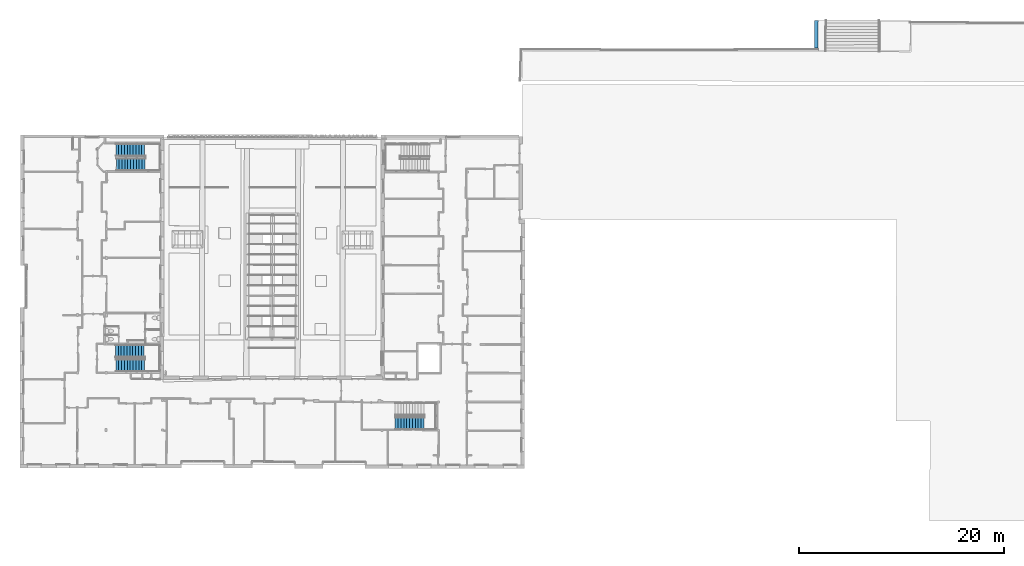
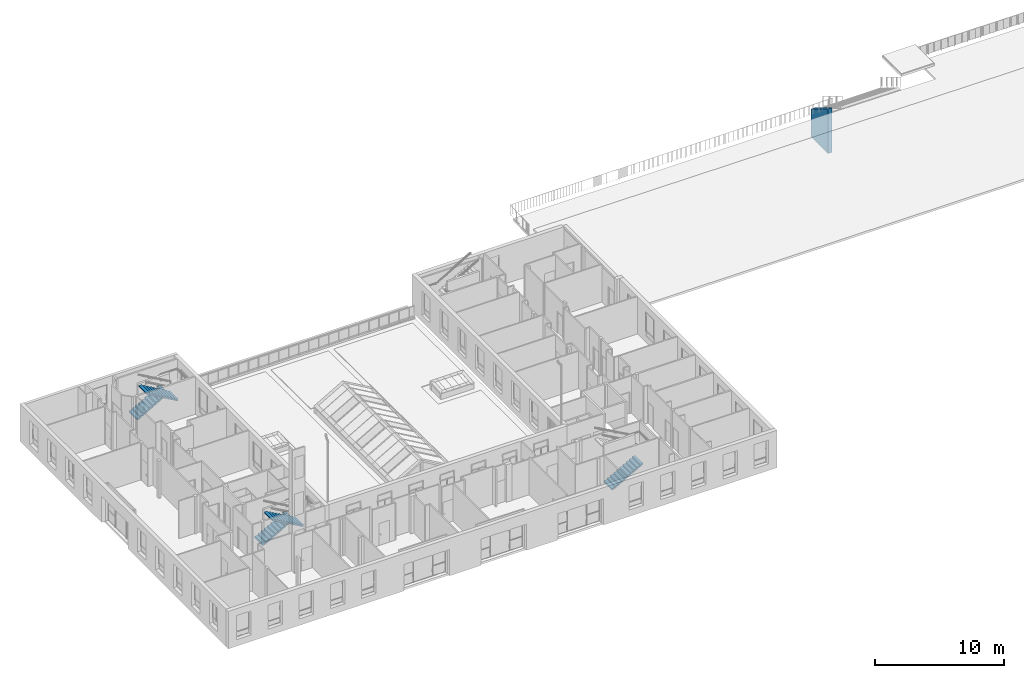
# One storey, part 96 of 101: 5 stair flights, 1 wall, 3 elements without a shape of their own.
"""IFC2X3 building model written with IfcOpenShell, lengths in metres."""

from ifc_helpers import new_model, entity, si_unit, converted_unit, derived_unit, direction, frame, origin, place, context, subcontext, project, spatial, faceted_brep, material, layer, layer_set, type_object, element, aggregate, save


model = new_model("IFC2X3")

# Units and contexts
model_context = context("Model", 3, precision=1e-05, world=origin(), true_north=direction((6.123233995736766e-17, 1.0)))
body_context = subcontext(model_context, "Body", "Model", "MODEL_VIEW")
ifc_project = project(units=[si_unit("LENGTHUNIT", "METRE"), si_unit("AREAUNIT", "SQUARE_METRE"), converted_unit("PLANEANGLEUNIT", "DEGREE", entity("IfcPlaneAngleMeasure", 0.017453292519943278), si_unit("PLANEANGLEUNIT", "RADIAN"), dimensions=[0, 0, 0, 0, 0, 0, 0]), derived_unit("THERMALTRANSMITTANCEUNIT", [(si_unit("MASSUNIT", "GRAM", prefix="KILO"), 1), (si_unit("THERMODYNAMICTEMPERATUREUNIT", "KELVIN"), -1), (si_unit("TIMEUNIT", "SECOND"), -3)])], contexts=[model_context])

# Site, building, storey
site_placement = place(None, frame((1253.6752467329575, 2072.143113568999, 91.49999999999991), z_axis=(0.0, 0.0, 1.0), x_axis=(0.7237211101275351, 0.6900925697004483, 0.0)))
site = spatial("IfcSite", under=ifc_project, at=site_placement, Name="Surface", CompositionType="ELEMENT")
building_placement = place(site_placement, origin())
building = spatial("IfcBuilding", under=site, at=building_placement, CompositionType="ELEMENT")
storey_placement = place(building_placement, origin())
storey = spatial("IfcBuildingStorey", under=building, at=storey_placement, Name="0- Rdc", CompositionType="ELEMENT", Elevation=-5.764692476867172e-13)

# Wall
ifc_material_1 = material(Name="OMD_Béton blanc")
ifc_layer = layer(ifc_material_1, 0.35)
ifc_layer_set = layer_set([ifc_layer], Name="Mur de base:MUR 35")
wall_type = type_object("IfcWallType", Name="Mur de base:MUR 35", PredefinedType="STANDARD", material=ifc_layer_set)
wall_placement = place(storey_placement, frame((230.0450433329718, -17.741332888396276, -4.9590424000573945), z_axis=(0.0, 0.0, 1.0), x_axis=(-0.6968585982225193, -0.7172085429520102, 0.0)))
element("IfcWall", 1, at=wall_placement, inside=storey, type_object=wall_type, Name="Mur de base:MUR 35", ObjectType="Mur de base:MUR 35", context=body_context, shape_type="Brep", body=[
    faceted_brep([(0.0, -0.17499999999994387, 0.0), (2.692794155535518, -0.17499999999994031, 0.0), (2.692794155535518, -0.17499999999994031, 4.240274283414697), (0.0, -0.17499999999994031, 2.6095068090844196), (0.0, 0.17500000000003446, 0.0), (0.0, 0.17500000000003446, 2.609506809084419), (2.6885943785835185, 0.1750000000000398, 4.237730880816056), (2.6885943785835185, 0.1750000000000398, 0.33715993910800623), (2.6885943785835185, 0.1750000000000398, 0.0)], [[[0, 1, 2, 3]], [[4, 5, 6, 7, 8]], [[1, 0, 4, 8]], [[2, 1, 8, 7, 6]], [[0, 3, 5, 4]], [[3, 2, 6, 5]]]),
])

# Stair, stair flight
type_product = type_object("IfcTypeProduct", Name="Escalier coulé sur place:Monobloc")
stair_1_placement = place(storey_placement, origin())
stair_1 = element("IfcStair", 2, at=stair_1_placement, inside=storey, type_object=type_product, Name="Escalier coulé sur place:Escalier", ObjectType="Escalier coulé sur place:Monobloc", ShapeType="HALF_TURN_STAIR")
ifc_material_2 = material(Name="<Unnamed>")
stair_flight_type = type_object("IfcStairFlightType", Name="Volée monobloc:Nez de marche 5 mm", PredefinedType="STRAIGHT")
stair_flight_1_placement = place(stair_1_placement, frame((172.77798046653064, -20.219401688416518, 0.0)))
stair_flight_1 = element("IfcStairFlight", 3, at=stair_flight_1_placement, type_object=stair_flight_type, material=ifc_material_2, Name="Escalier coulé sur place:Escalier:3231157 Run 1", ObjectType="Volée monobloc:Nez de marche 5 mm", NumberOfRiser=11, NumberOfTreads=10, RiserHeight=0.5144953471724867, TreadLength=0.9186351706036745, context=body_context, shape_type="Brep", body=[
    faceted_brep([(1.066133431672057, 2.644866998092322, 0.15681818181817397), (0.8637297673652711, 2.8383424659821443, 0.15681818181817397), (0.0, 1.934754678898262, 0.15681818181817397), (0.2024036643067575, 1.7412792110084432, 0.15681818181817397), (1.0661334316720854, 2.64486699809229, 0.06512573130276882), (0.9820762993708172, 2.725216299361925, 0.0), (0.8637297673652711, 2.8383424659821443, 0.0), (0.0, 1.934754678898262, 0.0), (0.11834653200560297, 1.8216285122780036, 0.0), (0.20240366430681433, 1.7412792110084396, 0.06512573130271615), (1.2685370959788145, 2.4513915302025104, 0.3136363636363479), (1.0661334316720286, 2.6448669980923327, 0.3136363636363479), (0.2024036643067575, 1.7412792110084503, 0.3136363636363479), (0.404807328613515, 1.54780374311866, 0.3136363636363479), (1.2685370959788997, 2.4513915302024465, 0.22194391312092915), (0.4048073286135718, 1.5478037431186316, 0.22194391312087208), (1.470940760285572, 2.2579160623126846, 0.47045454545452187), (1.268537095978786, 2.451391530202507, 0.47045454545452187), (0.404807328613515, 1.5478037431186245, 0.47045454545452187), (0.6072109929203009, 1.35432827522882, 0.47045454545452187), (1.4709407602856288, 2.257916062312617, 0.3787620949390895), (0.6072109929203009, 1.3543282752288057, 0.3787620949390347), (1.6733444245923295, 2.0644405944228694, 0.6272727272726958), (1.4709407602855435, 2.2579160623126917, 0.6272727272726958), (0.6072109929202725, 1.3543282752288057, 0.6272727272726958), (0.8096146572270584, 1.1608528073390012, 0.6272727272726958), (1.6733444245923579, 2.0644405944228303, 0.5355802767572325), (0.8096146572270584, 1.160852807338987, 0.535580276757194), (1.875748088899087, 1.87096512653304, 0.7840909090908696), (1.673344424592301, 2.0644405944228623, 0.7840909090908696), (0.80961465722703, 1.1608528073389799, 0.7840909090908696), (1.0120183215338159, 0.9673773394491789, 0.7840909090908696), (1.8757480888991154, 1.8709651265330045, 0.6923984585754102), (1.0120183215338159, 0.9673773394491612, 0.6923984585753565), (2.0781517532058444, 1.6774896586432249, 0.9409090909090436), (1.8757480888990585, 1.8709651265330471, 0.9409090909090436), (1.0120183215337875, 0.9673773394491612, 0.9409090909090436), (1.2144219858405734, 0.7739018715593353, 0.9409090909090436), (2.078151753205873, 1.6774896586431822, 0.8492166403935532), (1.2144219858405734, 0.7739018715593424, 0.8492166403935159), (2.280555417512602, 1.4840141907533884, 1.0977272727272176), (2.078151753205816, 1.6774896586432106, 1.0977272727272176), (1.214421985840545, 0.7739018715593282, 1.0977272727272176), (1.4168256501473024, 0.5804264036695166, 1.0977272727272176), (2.2805554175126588, 1.484014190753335, 1.0060348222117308), (1.4168256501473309, 0.5804264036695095, 1.0060348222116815), (2.4829590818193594, 1.2905387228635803, 1.2545454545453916), (2.2805554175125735, 1.4840141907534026, 1.2545454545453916), (1.4168256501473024, 0.5804264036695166, 1.2545454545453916), (1.61922931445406, 0.38695093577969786, 1.2545454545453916), (2.482959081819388, 1.2905387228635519, 1.1628530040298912), (1.6192293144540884, 0.38695093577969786, 1.1628530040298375), (2.685362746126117, 1.0970632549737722, 1.4113636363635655), (2.482959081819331, 1.290538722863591, 1.4113636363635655), (1.61922931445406, 0.3869509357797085, 1.4113636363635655), (1.821632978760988, 0.19347546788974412, 1.4113636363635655), (2.6853627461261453, 1.097063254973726, 1.3196711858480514), (1.8216329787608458, 0.19347546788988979, 1.3196711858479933), (2.887766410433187, 0.9035877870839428, 1.5681818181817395), (2.6853627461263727, 1.097063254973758, 1.5681818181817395), (1.82163297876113, 0.19347546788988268, 1.5681818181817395), (2.020422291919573, 0.003454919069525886, 1.5681818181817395), (2.024036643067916, 0.0, 1.5681818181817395), (2.887766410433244, 0.903587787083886, 1.4764893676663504), (2.020422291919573, 0.003454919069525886, 1.473689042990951), (2.024036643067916, 0.0, 1.4764893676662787)], [[[0, 1, 2, 3]], [[1, 0, 4, 5, 6]], [[2, 1, 6, 7]], [[3, 2, 7, 8, 9]], [[10, 11, 12, 13]], [[11, 10, 14, 4, 0]], [[0, 3, 12, 11]], [[13, 12, 3, 9, 15]], [[16, 17, 18, 19]], [[17, 16, 20, 14, 10]], [[10, 13, 18, 17]], [[19, 18, 13, 15, 21]], [[22, 23, 24, 25]], [[23, 22, 26, 20, 16]], [[16, 19, 24, 23]], [[25, 24, 19, 21, 27]], [[28, 29, 30, 31]], [[29, 28, 32, 26, 22]], [[22, 25, 30, 29]], [[31, 30, 25, 27, 33]], [[34, 35, 36, 37]], [[35, 34, 38, 32, 28]], [[28, 31, 36, 35]], [[37, 36, 31, 33, 39]], [[40, 41, 42, 43]], [[41, 40, 44, 38, 34]], [[34, 37, 42, 41]], [[43, 42, 37, 39, 45]], [[46, 47, 48, 49]], [[47, 46, 50, 44, 40]], [[40, 43, 48, 47]], [[49, 48, 43, 45, 51]], [[52, 53, 54, 55]], [[53, 52, 56, 50, 46]], [[46, 49, 54, 53]], [[55, 54, 49, 51, 57]], [[58, 59, 60, 61, 62]], [[59, 58, 63, 56, 52]], [[52, 55, 60, 59]], [[61, 60, 55, 57, 64]], [[62, 61, 64, 65]], [[58, 62, 65, 63]], [[7, 6, 5, 8]], [[8, 5, 4, 14, 20, 26, 32, 38, 44, 50, 56, 63, 65, 64, 57, 51, 45, 39, 33, 27, 21, 15, 9]]]),
])
aggregate(stair_1, [stair_flight_1])

# Stair, stair flights
stair_2_placement = place(storey_placement, origin())
stair_2 = element("IfcStair", 4, at=stair_2_placement, inside=storey, type_object=type_product, Name="Escalier coulé sur place:Escalier", ObjectType="Escalier coulé sur place:Monobloc", ShapeType="HALF_TURN_STAIR")
stair_flight_2_placement = place(stair_2_placement, frame((157.90272157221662, 3.7072982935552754, 0.0)))
stair_flight_2 = element("IfcStairFlight", 5, at=stair_flight_2_placement, type_object=stair_flight_type, material=ifc_material_2, Name="Escalier coulé sur place:Escalier:3234227 Run 1", ObjectType="Volée monobloc:Nez de marche 5 mm", NumberOfRiser=11, NumberOfTreads=10, RiserHeight=0.5144953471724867, TreadLength=0.9186351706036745, context=body_context, shape_type="Brep", body=[
    faceted_brep([(1.0661334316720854, 2.644866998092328, 0.15681818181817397), (0.8637297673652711, 2.83834246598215, 0.15681818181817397), (0.0, 1.934754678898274, 0.15681818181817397), (0.20240366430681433, 1.7412792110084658, 0.15681818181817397), (1.0661334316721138, 2.644866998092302, 0.06512573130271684), (0.9820762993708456, 2.7252162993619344, 0.0), (0.8637297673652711, 2.83834246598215, 0.0), (0.0, 1.934754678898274, 0.0), (0.11834653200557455, 1.821628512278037, 0.0), (0.20240366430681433, 1.7412792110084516, 0.06512573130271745), (1.2685370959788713, 2.4513915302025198, 0.3136363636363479), (1.0661334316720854, 2.644866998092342, 0.3136363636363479), (0.20240366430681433, 1.7412792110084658, 0.3136363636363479), (0.40480732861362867, 1.547803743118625, 0.3136363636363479), (1.2685370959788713, 2.451391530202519, 0.22194391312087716), (0.40480732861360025, 1.5478037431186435, 0.22194391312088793), (1.4709407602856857, 2.2579160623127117, 0.47045454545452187), (1.2685370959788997, 2.451391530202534, 0.47045454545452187), (0.40480732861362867, 1.5478037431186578, 0.47045454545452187), (0.607210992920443, 1.354328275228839, 0.47045454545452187), (1.470940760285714, 2.257916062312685, 0.3787620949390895), (0.607210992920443, 1.3543282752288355, 0.3787620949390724), (1.6733444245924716, 2.0644405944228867, 0.6272727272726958), (1.4709407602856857, 2.257916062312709, 0.6272727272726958), (0.607210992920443, 1.354328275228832, 0.6272727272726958), (0.8096146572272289, 1.160852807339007, 0.6272727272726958), (1.6733444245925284, 2.0644405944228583, 0.5355802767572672), (0.8096146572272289, 1.1608528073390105, 0.5355802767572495), (1.875748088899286, 1.870965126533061, 0.7840909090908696), (1.6733444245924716, 2.064440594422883, 0.7840909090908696), (0.8096146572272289, 1.160852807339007, 0.7840909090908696), (1.0120183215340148, 0.9673773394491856, 0.7840909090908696), (1.875748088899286, 1.8709651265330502, 0.6923984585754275), (1.0120183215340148, 0.9673773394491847, 0.6923984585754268), (2.078151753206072, 1.677489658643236, 0.9409090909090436), (1.875748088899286, 1.8709651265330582, 0.9409090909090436), (1.0120183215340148, 0.9673773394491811, 0.9409090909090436), (1.2144219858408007, 0.7739018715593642, 0.9409090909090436), (2.078151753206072, 1.6774896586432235, 0.8492166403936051), (1.2144219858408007, 0.7739018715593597, 0.8492166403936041), (2.2805554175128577, 1.4840141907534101, 1.0977272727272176), (2.078151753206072, 1.6774896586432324, 1.0977272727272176), (1.2144219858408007, 0.7739018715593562, 1.0977272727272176), (1.4168256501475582, 0.5804264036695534, 1.0977272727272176), (2.280555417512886, 1.4840141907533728, 1.0060348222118), (1.4168256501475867, 0.5804264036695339, 1.0060348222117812), (2.4829590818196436, 1.2905387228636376, 1.2545454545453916), (2.2805554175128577, 1.484014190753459, 1.2545454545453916), (1.4168256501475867, 0.5804264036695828, 1.2545454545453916), (1.6192293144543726, 0.38695093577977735, 1.2545454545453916), (2.482959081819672, 1.2905387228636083, 1.1628530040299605), (1.6192293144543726, 0.3869509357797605, 1.162853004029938), (2.6853627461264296, 1.0970632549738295, 1.4113636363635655), (2.4829590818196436, 1.290538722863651, 1.4113636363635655), (1.6192293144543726, 0.3869509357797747, 1.4113636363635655), (1.821632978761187, 0.19347546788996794, 1.4113636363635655), (2.685362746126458, 1.0970632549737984, 1.3196711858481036), (1.821632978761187, 0.19347546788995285, 1.3196711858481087), (2.8877664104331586, 0.9035877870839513, 1.5681818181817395), (2.8841520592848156, 0.9070427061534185, 1.5681818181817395), (2.6853627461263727, 1.0970632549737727, 1.5681818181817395), (1.8216329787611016, 0.19347546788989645, 1.5681818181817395), (2.0204222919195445, 0.003454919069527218, 1.5681818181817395), (2.0240366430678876, 0.0, 1.5681818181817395), (2.8877664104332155, 0.9035877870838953, 1.4764893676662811), (2.8841520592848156, 0.9070427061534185, 1.4736890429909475), (2.0204222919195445, 0.003454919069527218, 1.473689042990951), (2.0240366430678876, 0.0, 1.476489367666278)], [[[0, 1, 2, 3]], [[1, 0, 4, 5, 6]], [[2, 1, 6, 7]], [[3, 2, 7, 8, 9]], [[10, 11, 12, 13]], [[11, 10, 14, 4, 0]], [[0, 3, 12, 11]], [[13, 12, 3, 9, 15]], [[16, 17, 18, 19]], [[17, 16, 20, 14, 10]], [[10, 13, 18, 17]], [[19, 18, 13, 15, 21]], [[22, 23, 24, 25]], [[23, 22, 26, 20, 16]], [[16, 19, 24, 23]], [[25, 24, 19, 21, 27]], [[28, 29, 30, 31]], [[29, 28, 32, 26, 22]], [[22, 25, 30, 29]], [[31, 30, 25, 27, 33]], [[34, 35, 36, 37]], [[35, 34, 38, 32, 28]], [[28, 31, 36, 35]], [[37, 36, 31, 33, 39]], [[40, 41, 42, 43]], [[41, 40, 44, 38, 34]], [[34, 37, 42, 41]], [[43, 42, 37, 39, 45]], [[46, 47, 48, 49]], [[47, 46, 50, 44, 40]], [[40, 43, 48, 47]], [[49, 48, 43, 45, 51]], [[52, 53, 54, 55]], [[53, 52, 56, 50, 46]], [[46, 49, 54, 53]], [[55, 54, 49, 51, 57]], [[58, 59, 60, 61, 62, 63]], [[59, 58, 64, 65]], [[60, 59, 65, 56, 52]], [[52, 55, 61, 60]], [[62, 61, 55, 57, 66]], [[63, 62, 66, 67]], [[58, 63, 67, 64]], [[7, 6, 5, 8]], [[8, 5, 4, 14, 20, 26, 32, 38, 44, 50, 56, 65, 64, 67, 66, 57, 51, 45, 39, 33, 27, 21, 15, 9]]]),
])
stair_flight_3_placement = place(stair_2_placement, frame((156.976848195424, 2.6693911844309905, 0.0)))
stair_flight_3 = element("IfcStairFlight", 6, at=stair_flight_3_placement, type_object=stair_flight_type, material=ifc_material_2, Name="Escalier coulé sur place:Escalier:3234227 Run 2", ObjectType="Volée monobloc:Nez de marche 5 mm", NumberOfRiser=11, NumberOfTreads=10, RiserHeight=0.5144953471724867, TreadLength=0.9186351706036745, context=body_context, shape_type="Brep", body=[
    faceted_brep([(1.8180186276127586, 0.1934754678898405, 1.8818181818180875), (2.0204222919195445, 0.0, 1.8818181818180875), (2.8841520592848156, 0.9035877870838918, 1.8818181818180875), (2.6817483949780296, 1.0970632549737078, 1.8818181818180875), (1.8180186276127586, 0.19347546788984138, 1.7901257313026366), (2.0204222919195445, 0.0, 1.6333075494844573), (2.0204222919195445, 0.0, 1.7249999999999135), (2.8841520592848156, 0.9035877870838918, 1.633307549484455), (2.8841520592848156, 0.9035877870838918, 1.7249999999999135), (2.6817483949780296, 1.097063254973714, 1.7901257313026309), (1.6156149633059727, 0.38695093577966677, 2.0386363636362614), (1.8180186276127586, 0.19347546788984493, 2.0386363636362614), (2.6817483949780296, 1.097063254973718, 2.0386363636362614), (2.4793447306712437, 1.2905387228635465, 2.0386363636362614), (1.6156149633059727, 0.38695093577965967, 1.9469439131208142), (2.4793447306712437, 1.2905387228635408, 1.9469439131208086), (1.4132112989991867, 0.5804264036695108, 2.1954545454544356), (1.6156149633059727, 0.38695093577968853, 2.1954545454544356), (2.4793447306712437, 1.2905387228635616, 2.1954545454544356), (2.2769410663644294, 1.4840141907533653, 2.1954545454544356), (1.4132112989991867, 0.5804264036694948, 2.103762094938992), (2.2769410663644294, 1.484014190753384, 2.103762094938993), (1.2108076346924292, 0.7739018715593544, 2.3522727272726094), (1.4132112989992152, 0.5804264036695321, 2.3522727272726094), (2.2769410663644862, 1.4840141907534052, 2.3522727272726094), (2.074537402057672, 1.677489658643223, 2.3522727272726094), (1.2108076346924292, 0.7739018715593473, 2.2605802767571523), (2.074537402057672, 1.6774896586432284, 2.260580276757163), (1.0084039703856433, 0.9673773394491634, 2.5090909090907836), (1.2108076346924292, 0.7739018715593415, 2.5090909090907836), (2.074537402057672, 1.6774896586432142, 2.5090909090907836), (1.8721337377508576, 1.8709651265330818, 2.5090909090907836), (1.0084039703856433, 0.9673773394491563, 2.41739845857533), (1.872133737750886, 1.8709651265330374, 2.4173984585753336), (0.8060003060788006, 1.1608528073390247, 2.6659090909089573), (1.008403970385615, 0.9673773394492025, 2.6659090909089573), (1.8721337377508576, 1.8709651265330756, 2.6659090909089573), (1.6697300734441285, 2.0644405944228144, 2.6659090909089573), (0.8060003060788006, 1.1608528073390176, 2.5742166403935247), (1.6697300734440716, 2.064440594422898, 2.574216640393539), (0.6035966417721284, 1.3543282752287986, 2.822727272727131), (0.8060003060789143, 1.1608528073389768, 2.822727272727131), (1.6697300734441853, 2.06444059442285, 2.822727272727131), (1.467326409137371, 2.257916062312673, 2.822727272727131), (0.6035966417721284, 1.3543282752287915, 2.7310348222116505), (1.467326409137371, 2.257916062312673, 2.7310348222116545), (0.40119297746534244, 1.5478037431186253, 2.9795454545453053), (0.6035966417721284, 1.354328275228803, 2.9795454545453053), (1.467326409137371, 2.2579160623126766, 2.9795454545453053), (1.264922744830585, 2.451391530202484, 2.9795454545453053), (0.40119297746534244, 1.5478037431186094, 2.8878530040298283), (1.264922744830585, 2.4513915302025, 2.8878530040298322), (0.19878931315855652, 1.7412792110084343, 3.136363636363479), (0.40119297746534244, 1.547803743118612, 3.136363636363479), (1.264922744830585, 2.4513915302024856, 3.136363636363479), (1.0625190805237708, 2.6448669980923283, 3.136363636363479), (0.19878931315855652, 1.7412792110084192, 3.0446711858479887), (1.0625190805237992, 2.6448669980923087, 3.044671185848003), (0.0, 1.9312997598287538, 3.2931818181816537), (0.19878931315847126, 1.7412792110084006, 3.2931818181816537), (1.0625190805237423, 2.644866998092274, 3.2931818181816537), (0.8637297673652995, 2.834887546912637, 3.2931818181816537), (0.0, 1.9312997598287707, 3.1986890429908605), (0.8637297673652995, 2.834887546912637, 3.198689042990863)], [[[0, 1, 2, 3]], [[1, 0, 4, 5, 6]], [[2, 1, 6, 5, 7, 8]], [[3, 2, 8, 7, 9]], [[10, 11, 12, 13]], [[11, 10, 14, 4, 0]], [[12, 11, 0, 3]], [[13, 12, 3, 9, 15]], [[16, 17, 18, 19]], [[17, 16, 20, 14, 10]], [[18, 17, 10, 13]], [[19, 18, 13, 15, 21]], [[22, 23, 24, 25]], [[23, 22, 26, 20, 16]], [[24, 23, 16, 19]], [[25, 24, 19, 21, 27]], [[28, 29, 30, 31]], [[29, 28, 32, 26, 22]], [[30, 29, 22, 25]], [[31, 30, 25, 27, 33]], [[34, 35, 36, 37]], [[35, 34, 38, 32, 28]], [[36, 35, 28, 31]], [[37, 36, 31, 33, 39]], [[40, 41, 42, 43]], [[41, 40, 44, 38, 34]], [[42, 41, 34, 37]], [[43, 42, 37, 39, 45]], [[46, 47, 48, 49]], [[47, 46, 50, 44, 40]], [[48, 47, 40, 43]], [[49, 48, 43, 45, 51]], [[52, 53, 54, 55]], [[53, 52, 56, 50, 46]], [[54, 53, 46, 49]], [[55, 54, 49, 51, 57]], [[58, 59, 60, 61]], [[59, 58, 62, 56, 52]], [[60, 59, 52, 55]], [[61, 60, 55, 57, 63]], [[58, 61, 63, 62]], [[5, 4, 14, 20, 26, 32, 38, 44, 50, 56, 62, 63, 57, 51, 45, 39, 33, 27, 21, 15, 9, 7]]]),
])
aggregate(stair_2, [stair_flight_2, stair_flight_3])

stair_3_placement = place(storey_placement, origin())
stair_3 = element("IfcStair", 7, at=stair_3_placement, inside=storey, type_object=type_product, Name="Escalier coulé sur place:Escalier", ObjectType="Escalier coulé sur place:Monobloc", ShapeType="HALF_TURN_STAIR")
stair_flight_4_placement = place(stair_3_placement, frame((171.45929842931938, 17.866532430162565, 0.0)))
stair_flight_4 = element("IfcStairFlight", 8, at=stair_flight_4_placement, type_object=stair_flight_type, material=ifc_material_2, Name="Escalier coulé sur place:Escalier:3239510 Run 1", ObjectType="Volée monobloc:Nez de marche 5 mm", NumberOfRiser=11, NumberOfTreads=10, RiserHeight=0.5294082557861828, TreadLength=0.9186351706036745, context=body_context, shape_type="Brep", body=[
    faceted_brep([(1.0661334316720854, 2.6448669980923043, 0.16136363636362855), (0.8637297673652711, 2.838342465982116, 0.16136363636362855), (0.0, 1.9347546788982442, 0.16136363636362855), (0.20240366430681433, 1.7412792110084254, 0.16136363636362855), (1.0661334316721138, 2.6448669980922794, 0.06902962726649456), (0.9795473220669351, 2.7276337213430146, 0.0), (0.8637297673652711, 2.838342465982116, 0.0), (0.0, 1.9347546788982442, 0.0), (0.11581755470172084, 1.8240459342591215, 0.0), (0.20240366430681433, 1.7412792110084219, 0.06902962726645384), (1.2685370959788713, 2.451391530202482, 0.32272727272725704), (1.0661334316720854, 2.6448669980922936, 0.32272727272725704), (0.20240366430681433, 1.7412792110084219, 0.32272727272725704), (0.40480732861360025, 1.547803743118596, 0.32272727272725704), (1.2685370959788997, 2.4513915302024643, 0.23039326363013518), (0.40480732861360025, 1.547803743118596, 0.23039326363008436), (1.4709407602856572, 2.2579160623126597, 0.48409090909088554), (1.2685370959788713, 2.451391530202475, 0.48409090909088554), (0.40480732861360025, 1.5478037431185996, 0.48409090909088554), (0.6072109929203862, 1.3543282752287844, 0.48409090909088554), (1.4709407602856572, 2.2579160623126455, 0.3917568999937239), (0.6072109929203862, 1.3543282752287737, 0.3917568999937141), (1.6733444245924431, 2.0644405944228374, 0.645454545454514), (1.4709407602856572, 2.2579160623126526, 0.645454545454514), (0.6072109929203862, 1.3543282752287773, 0.645454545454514), (0.8096146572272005, 1.1608528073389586, 0.645454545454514), (1.6733444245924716, 2.0644405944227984, 0.5531205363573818), (0.8096146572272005, 1.1608528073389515, 0.5531205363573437), (1.875748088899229, 1.8709651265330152, 0.8068181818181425), (1.6733444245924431, 2.0644405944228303, 0.8068181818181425), (0.8096146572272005, 1.160852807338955, 0.8068181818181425), (1.0120183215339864, 0.9673773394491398, 0.8068181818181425), (1.875748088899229, 1.8709651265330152, 0.7144841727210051), (1.0120183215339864, 0.9673773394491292, 0.7144841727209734), (2.078151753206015, 1.6774896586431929, 0.9681818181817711), (1.875748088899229, 1.870965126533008, 0.9681818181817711), (1.0120183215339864, 0.9673773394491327, 0.9681818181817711), (1.2144219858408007, 0.773901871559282, 0.9681818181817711), (2.078151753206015, 1.6774896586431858, 0.8758478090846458), (1.2144219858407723, 0.7739018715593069, 0.8758478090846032), (2.2805554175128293, 1.4840141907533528, 1.1295454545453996), (2.078151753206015, 1.677489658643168, 1.1295454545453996), (1.2144219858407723, 0.7739018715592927, 1.1295454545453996), (1.4168256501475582, 0.5804264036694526, 1.1295454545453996), (2.2805554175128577, 1.4840141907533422, 1.037211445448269), (1.4168256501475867, 0.5804264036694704, 1.037211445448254), (2.482959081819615, 1.2905387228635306, 1.2909090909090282), (2.2805554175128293, 1.4840141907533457, 1.2909090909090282), (1.4168256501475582, 0.5804264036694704, 1.2909090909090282), (1.6192293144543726, 0.3869509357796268, 1.2909090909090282), (2.482959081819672, 1.2905387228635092, 1.1985750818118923), (1.6192293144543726, 0.3869509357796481, 1.1985750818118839), (2.685362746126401, 1.0970632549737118, 1.4522727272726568), (2.482959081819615, 1.2905387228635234, 1.4522727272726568), (1.6192293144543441, 0.3869509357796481, 1.4522727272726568), (1.8216329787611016, 0.1934754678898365, 1.4522727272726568), (2.685362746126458, 1.097063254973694, 1.359938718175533), (1.821632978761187, 0.19347546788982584, 1.3599387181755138), (2.887766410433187, 0.9035877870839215, 1.6136363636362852), (2.884152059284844, 0.9070427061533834, 1.6136363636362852), (2.685362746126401, 1.0970632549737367, 1.6136363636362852), (1.82163297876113, 0.19347546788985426, 1.6136363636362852), (2.020422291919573, 0.003454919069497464, 1.6136363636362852), (2.0240366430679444, 0.0, 1.6136363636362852), (2.8877664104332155, 0.9035877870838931, 1.5213023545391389), (2.884152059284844, 0.9070427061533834, 1.518420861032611), (2.020422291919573, 0.003454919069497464, 1.5184208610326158), (2.0240366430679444, 0.0, 1.5213023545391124)], [[[0, 1, 2, 3]], [[1, 0, 4, 5, 6]], [[2, 1, 6, 7]], [[3, 2, 7, 8, 9]], [[10, 11, 12, 13]], [[11, 10, 14, 4, 0]], [[0, 3, 12, 11]], [[13, 12, 3, 9, 15]], [[16, 17, 18, 19]], [[17, 16, 20, 14, 10]], [[10, 13, 18, 17]], [[19, 18, 13, 15, 21]], [[22, 23, 24, 25]], [[23, 22, 26, 20, 16]], [[16, 19, 24, 23]], [[25, 24, 19, 21, 27]], [[28, 29, 30, 31]], [[29, 28, 32, 26, 22]], [[22, 25, 30, 29]], [[31, 30, 25, 27, 33]], [[34, 35, 36, 37]], [[35, 34, 38, 32, 28]], [[28, 31, 36, 35]], [[37, 36, 31, 33, 39]], [[40, 41, 42, 43]], [[41, 40, 44, 38, 34]], [[34, 37, 42, 41]], [[43, 42, 37, 39, 45]], [[46, 47, 48, 49]], [[47, 46, 50, 44, 40]], [[40, 43, 48, 47]], [[49, 48, 43, 45, 51]], [[52, 53, 54, 55]], [[53, 52, 56, 50, 46]], [[46, 49, 54, 53]], [[55, 54, 49, 51, 57]], [[58, 59, 60, 61, 62, 63]], [[59, 58, 64, 65]], [[60, 59, 65, 56, 52]], [[52, 55, 61, 60]], [[62, 61, 55, 57, 66]], [[63, 62, 66, 67]], [[58, 63, 67, 64]], [[7, 6, 5, 8]], [[8, 5, 4, 14, 20, 26, 32, 38, 44, 50, 56, 65, 64, 67, 66, 57, 51, 45, 39, 33, 27, 21, 15, 9]]]),
])
stair_flight_5_placement = place(stair_3_placement, frame((170.51063057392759, 16.8124173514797, 0.0)))
stair_flight_5 = element("IfcStairFlight", 9, at=stair_flight_5_placement, type_object=stair_flight_type, material=ifc_material_2, Name="Escalier coulé sur place:Escalier:3239510 Run 2", ObjectType="Volée monobloc:Nez de marche 5 mm", NumberOfRiser=11, NumberOfTreads=10, RiserHeight=0.5294082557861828, TreadLength=0.9186351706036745, context=body_context, shape_type="Brep", body=[
    faceted_brep([(1.8180186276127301, 0.19347546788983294, 1.9363636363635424), (2.020422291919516, 0.0, 1.9363636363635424), (2.8841520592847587, 0.9035877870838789, 1.9363636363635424), (2.681748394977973, 1.0970632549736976, 1.9363636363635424), (1.8180186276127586, 0.19347546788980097, 1.8440296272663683), (2.020422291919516, 0.0, 1.6826659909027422), (2.020422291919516, 0.0, 1.7749999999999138), (2.8841520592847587, 0.9035877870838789, 1.682665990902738), (2.8841520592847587, 0.9035877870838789, 1.7749999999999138), (2.681748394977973, 1.0970632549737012, 1.8440296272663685), (1.6156149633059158, 0.3869509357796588, 2.097727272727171), (1.8180186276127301, 0.1934754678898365, 2.097727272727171), (2.681748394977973, 1.0970632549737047, 2.097727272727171), (2.479344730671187, 1.2905387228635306, 2.097727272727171), (1.615614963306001, 0.38695093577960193, 2.005393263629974), (2.479344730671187, 1.290538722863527, 2.0053932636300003), (1.41321129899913, 0.5804264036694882, 2.2590909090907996), (1.6156149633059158, 0.38695093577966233, 2.2590909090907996), (2.479344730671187, 1.2905387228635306, 2.2590909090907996), (2.2769410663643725, 1.484014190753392, 2.2590909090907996), (1.41321129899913, 0.5804264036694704, 2.166756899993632), (2.276941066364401, 1.4840141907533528, 2.1667568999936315), (1.2108076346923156, 0.7739018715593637, 2.4204545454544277), (1.4132112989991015, 0.5804264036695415, 2.4204545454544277), (2.2769410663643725, 1.4840141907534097, 2.4204545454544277), (2.0745374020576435, 1.6774896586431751, 2.4204545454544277), (1.2108076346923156, 0.7739018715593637, 2.3281205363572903), (2.074537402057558, 1.677489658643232, 2.3281205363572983), (1.0084039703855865, 0.9673773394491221, 2.581818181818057), (1.2108076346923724, 0.7739018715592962, 2.581818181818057), (2.0745374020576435, 1.6774896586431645, 2.581818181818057), (1.8721337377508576, 1.8709651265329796, 2.581818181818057), (1.0084039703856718, 0.9673773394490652, 2.4894841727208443), (1.8721337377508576, 1.8709651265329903, 2.489484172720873), (0.8060003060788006, 1.160852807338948, 2.743181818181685), (1.0084039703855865, 0.9673773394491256, 2.743181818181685), (1.8721337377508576, 1.8709651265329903, 2.743181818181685), (1.6697300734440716, 2.0644405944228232, 2.743181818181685), (0.806000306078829, 1.160852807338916, 2.650847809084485), (1.6697300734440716, 2.064440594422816, 2.6508478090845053), (0.6035966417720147, 1.3543282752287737, 2.9045454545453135), (0.8060003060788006, 1.1608528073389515, 2.9045454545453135), (1.6697300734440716, 2.0644405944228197, 2.9045454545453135), (1.467326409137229, 2.2579160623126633, 2.9045454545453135), (0.6035966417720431, 1.3543282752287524, 2.812211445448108), (1.4673264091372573, 2.257916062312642, 2.8122114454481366), (0.40119297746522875, 1.5478037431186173, 3.0659090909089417), (0.6035966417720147, 1.354328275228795, 3.0659090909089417), (1.4673264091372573, 2.2579160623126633, 3.0659090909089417), (1.2649227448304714, 2.4513915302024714, 3.0659090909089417), (0.4011929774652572, 1.547803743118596, 2.973575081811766), (1.2649227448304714, 2.4513915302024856, 2.9735750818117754), (0.19878931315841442, 1.741279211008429, 3.2272727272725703), (0.40119297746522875, 1.5478037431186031, 3.2272727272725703), (1.2649227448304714, 2.4513915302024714, 3.2272727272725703), (1.0625190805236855, 2.644866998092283, 3.2272727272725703), (0.19878931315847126, 1.741279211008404, 3.1349387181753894), (1.0625190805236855, 2.6448669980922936, 3.1349387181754), (0.0, 1.931299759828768, 3.3886363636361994), (0.19878931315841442, 1.7412792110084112, 3.3886363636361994), (1.0625190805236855, 2.6448669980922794, 3.3886363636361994), (0.8637297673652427, 2.8348875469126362, 3.3886363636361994), (0.0, 1.9312997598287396, 3.293420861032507), (0.8637297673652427, 2.8348875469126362, 3.293420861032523)], [[[0, 1, 2, 3]], [[1, 0, 4, 5, 6]], [[2, 1, 6, 5, 7, 8]], [[3, 2, 8, 7, 9]], [[10, 11, 12, 13]], [[11, 10, 14, 4, 0]], [[12, 11, 0, 3]], [[13, 12, 3, 9, 15]], [[16, 17, 18, 19]], [[17, 16, 20, 14, 10]], [[18, 17, 10, 13]], [[19, 18, 13, 15, 21]], [[22, 23, 24, 25]], [[23, 22, 26, 20, 16]], [[24, 23, 16, 19]], [[25, 24, 19, 21, 27]], [[28, 29, 30, 31]], [[29, 28, 32, 26, 22]], [[30, 29, 22, 25]], [[31, 30, 25, 27, 33]], [[34, 35, 36, 37]], [[35, 34, 38, 32, 28]], [[36, 35, 28, 31]], [[37, 36, 31, 33, 39]], [[40, 41, 42, 43]], [[41, 40, 44, 38, 34]], [[42, 41, 34, 37]], [[43, 42, 37, 39, 45]], [[46, 47, 48, 49]], [[47, 46, 50, 44, 40]], [[48, 47, 40, 43]], [[49, 48, 43, 45, 51]], [[52, 53, 54, 55]], [[53, 52, 56, 50, 46]], [[54, 53, 46, 49]], [[55, 54, 49, 51, 57]], [[58, 59, 60, 61]], [[59, 58, 62, 56, 52]], [[60, 59, 52, 55]], [[61, 60, 55, 57, 63]], [[58, 61, 63, 62]], [[5, 4, 14, 20, 26, 32, 38, 44, 50, 56, 62, 63, 57, 51, 45, 39, 33, 27, 21, 15, 9, 7]]]),
])
aggregate(stair_3, [stair_flight_4, stair_flight_5])

save(model, "model.ifc")
